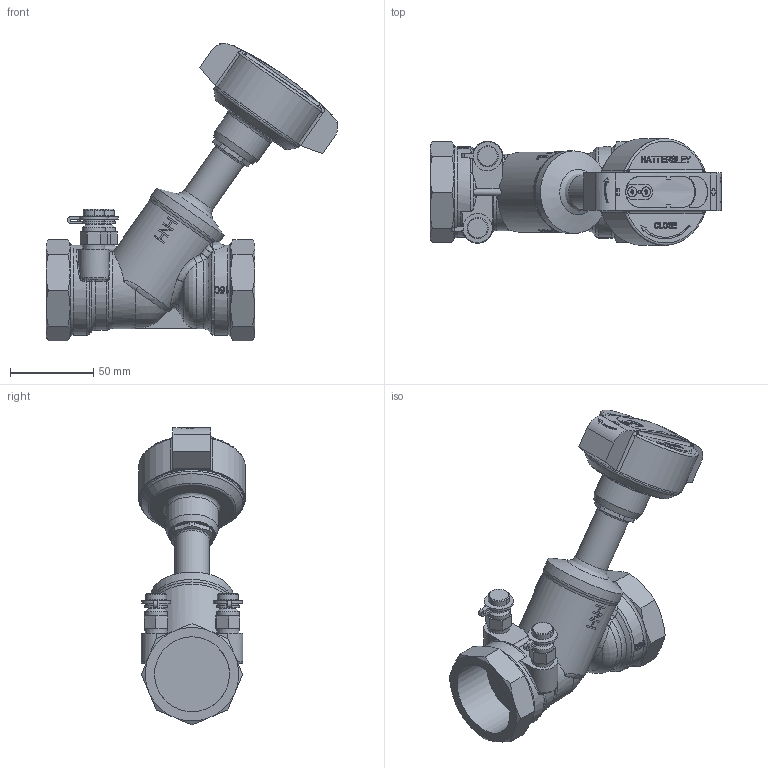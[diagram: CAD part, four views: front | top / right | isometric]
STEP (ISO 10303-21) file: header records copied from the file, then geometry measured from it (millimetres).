
FILE_DESCRIPTION((''),'2;1');
FILE_NAME('P:\Fastrack\53972_CRANE 3D\Workspace\HATTERSLEY\Fig-1732_1 1-2in\Fig-1732_1 1-2in.stp','2011-03-07T15:23:33',('btaylor'),(''),'Autodesk Inventor 2008','Autodesk Inventor 2008','');
FILE_SCHEMA(('AUTOMOTIVE_DESIGN { 1 0 10303 214 1 1 1 1 }'));
Length unit declared in the file: millimetre
Products named in the file (1): Fig_1732_1 1-2in
Bounding box: 174.83 x 63.85 x 178.27 mm (x, y, z)
Volume: 412893.2 mm3; surface area: 59423.6 mm2
Topology: 1 solids, 1 shells, 756 faces, 1933 edges, 1241 vertices
Faces by surface type: plane 345, bspline 250, cylinder 99, cone 48, torus 12, sphere 2
Full cylindrical faces by diameter (mm): 7.4 x2, 11 x2, 12.7 x2, 13.7 x2, 20.5 x1, 31.5 x1, 49.5 x1, 54 x2, 61.958 x1
Entity records: 68770 total; most frequent: CARTESIAN_POINT 51757, ORIENTED_EDGE 3754, DIRECTION 2570, EDGE_CURVE 1877, VERTEX_POINT 1221, EDGE_LOOP 865, VECTOR 864, LINE 864
